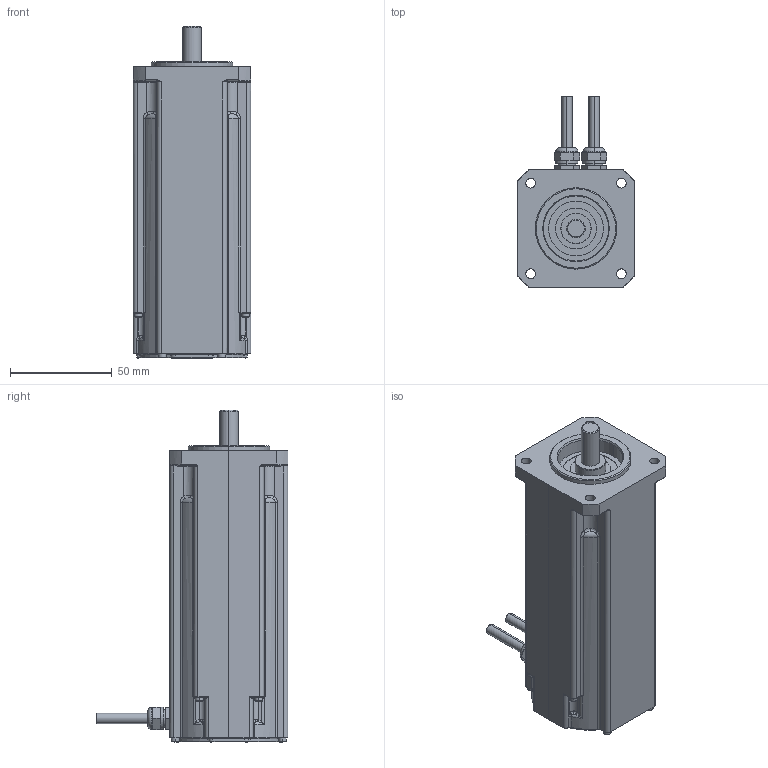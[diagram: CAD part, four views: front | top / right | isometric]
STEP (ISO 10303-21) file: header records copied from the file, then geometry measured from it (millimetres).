
FILE_DESCRIPTION (( 'STEP AP214' ), '1' );
FILE_NAME ('MR7724-Ux-Nxx-G01-AK2-M0-P0.stp', '2009-04-08T13:46:00', ( 'sysAdmin' ), ( 'SolidWorks' ), 'SwSTEP 2.0', 'SolidWorks 2009', '' );
FILE_SCHEMA (( 'AUTOMOTIVE_DESIGN' ));
Length unit declared in the file: millimetre
Products named in the file (1): MR7724-Ux-Nxx-G01-AK2-M0-P0
Bounding box: 58 x 94.32 x 163.2 mm (x, y, z)
Volume: 413177.3 mm3; surface area: 40541.2 mm2
Topology: 1 solids, 1 shells, 435 faces, 1022 edges, 592 vertices
Faces by surface type: cylinder 136, bspline 124, plane 107, torus 40, cone 28
Entity records: 16600 total; most frequent: CARTESIAN_POINT 6342, ORIENTED_EDGE 2004, DIRECTION 1758, EDGE_CURVE 1002, AXIS2_PLACEMENT_3D 704, VERTEX_POINT 592, EDGE_LOOP 466, ADVANCED_FACE 435
